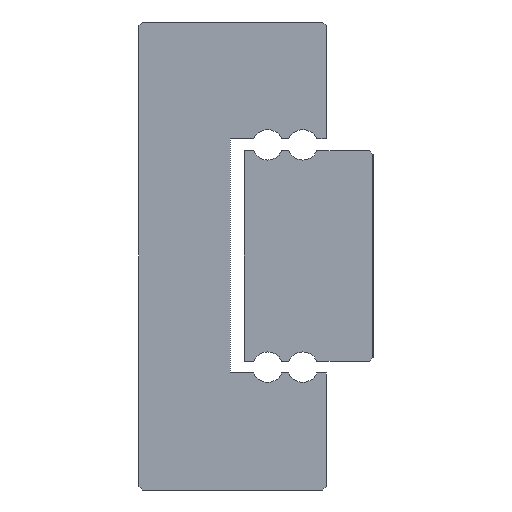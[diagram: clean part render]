
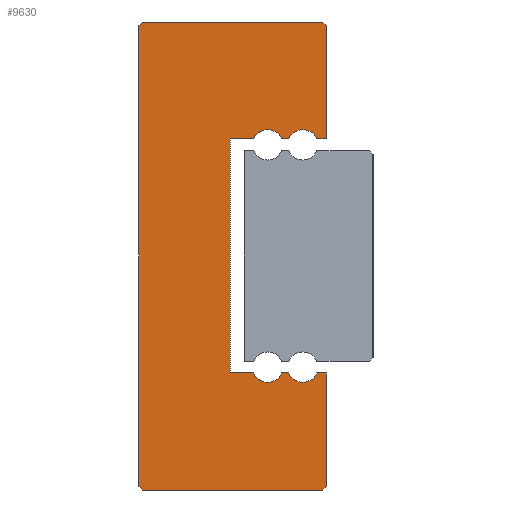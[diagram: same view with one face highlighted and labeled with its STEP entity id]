
A CAD part, left-side view. The second image highlights one B-rep face of the part: STEP entity #9630.
In plain terms, the highlighted planar face has unit normal (-1, 0, 0).
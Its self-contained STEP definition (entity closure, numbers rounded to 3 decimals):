
#320=CIRCLE('',#10468,0.65);
#322=CIRCLE('',#10472,0.65);
#324=CIRCLE('',#10478,0.65);
#326=CIRCLE('',#10482,0.65);
#1634=ORIENTED_EDGE('',*,*,#4026,.F.);
#1635=ORIENTED_EDGE('',*,*,#4480,.F.);
#1636=ORIENTED_EDGE('',*,*,#4477,.F.);
#1637=ORIENTED_EDGE('',*,*,#4460,.F.);
#1638=ORIENTED_EDGE('',*,*,#4457,.F.);
#1639=ORIENTED_EDGE('',*,*,#4454,.F.);
#1640=ORIENTED_EDGE('',*,*,#4451,.F.);
#1641=ORIENTED_EDGE('',*,*,#4448,.F.);
#1642=ORIENTED_EDGE('',*,*,#4445,.T.);
#1643=ORIENTED_EDGE('',*,*,#4442,.F.);
#1644=ORIENTED_EDGE('',*,*,#4439,.T.);
#1645=ORIENTED_EDGE('',*,*,#4436,.F.);
#1646=ORIENTED_EDGE('',*,*,#4433,.F.);
#1647=ORIENTED_EDGE('',*,*,#4430,.F.);
#1648=ORIENTED_EDGE('',*,*,#4427,.T.);
#1649=ORIENTED_EDGE('',*,*,#4424,.F.);
#1650=ORIENTED_EDGE('',*,*,#4421,.T.);
#1651=ORIENTED_EDGE('',*,*,#4418,.F.);
#1652=ORIENTED_EDGE('',*,*,#4415,.F.);
#1653=ORIENTED_EDGE('',*,*,#4412,.F.);
#4026=EDGE_CURVE('',#5486,#5487,#6478,.T.);
#4412=EDGE_CURVE('',#5487,#5872,#6616,.T.);
#4415=EDGE_CURVE('',#5872,#5874,#6619,.T.);
#4418=EDGE_CURVE('',#5874,#5876,#6622,.T.);
#4421=EDGE_CURVE('',#5878,#5876,#320,.T.);
#4424=EDGE_CURVE('',#5878,#5880,#6626,.T.);
#4427=EDGE_CURVE('',#5882,#5880,#322,.T.);
#4430=EDGE_CURVE('',#5882,#5884,#6630,.T.);
#4433=EDGE_CURVE('',#5884,#5886,#6633,.T.);
#4436=EDGE_CURVE('',#5886,#5888,#6636,.T.);
#4439=EDGE_CURVE('',#5890,#5888,#324,.T.);
#4442=EDGE_CURVE('',#5890,#5892,#6640,.T.);
#4445=EDGE_CURVE('',#5894,#5892,#326,.T.);
#4448=EDGE_CURVE('',#5894,#5896,#6644,.T.);
#4451=EDGE_CURVE('',#5896,#5898,#6647,.T.);
#4454=EDGE_CURVE('',#5898,#5900,#6650,.T.);
#4457=EDGE_CURVE('',#5900,#5902,#6653,.T.);
#4460=EDGE_CURVE('',#5902,#5904,#6656,.T.);
#4477=EDGE_CURVE('',#5904,#5920,#6659,.T.);
#4480=EDGE_CURVE('',#5920,#5486,#6662,.T.);
#5486=VERTEX_POINT('',#14759);
#5487=VERTEX_POINT('',#14760);
#5872=VERTEX_POINT('',#15532);
#5874=VERTEX_POINT('',#15538);
#5876=VERTEX_POINT('',#15544);
#5878=VERTEX_POINT('',#15550);
#5880=VERTEX_POINT('',#15556);
#5882=VERTEX_POINT('',#15562);
#5884=VERTEX_POINT('',#15568);
#5886=VERTEX_POINT('',#15574);
#5888=VERTEX_POINT('',#15580);
#5890=VERTEX_POINT('',#15586);
#5892=VERTEX_POINT('',#15592);
#5894=VERTEX_POINT('',#15598);
#5896=VERTEX_POINT('',#15604);
#5898=VERTEX_POINT('',#15610);
#5900=VERTEX_POINT('',#15616);
#5902=VERTEX_POINT('',#15622);
#5904=VERTEX_POINT('',#15628);
#5920=VERTEX_POINT('',#15662);
#6478=LINE('',#14758,#7294);
#6616=LINE('',#15531,#7432);
#6619=LINE('',#15537,#7435);
#6622=LINE('',#15543,#7438);
#6626=LINE('',#15555,#7442);
#6630=LINE('',#15567,#7446);
#6633=LINE('',#15573,#7449);
#6636=LINE('',#15579,#7452);
#6640=LINE('',#15591,#7456);
#6644=LINE('',#15603,#7460);
#6647=LINE('',#15609,#7463);
#6650=LINE('',#15615,#7466);
#6653=LINE('',#15621,#7469);
#6656=LINE('',#15627,#7472);
#6659=LINE('',#15661,#7475);
#6662=LINE('',#15667,#7478);
#7294=VECTOR('',#11519,1000.);
#7432=VECTOR('',#12155,1000.);
#7435=VECTOR('',#12160,1000.);
#7438=VECTOR('',#12165,1000.);
#7442=VECTOR('',#12177,1000.);
#7446=VECTOR('',#12189,1000.);
#7449=VECTOR('',#12194,1000.);
#7452=VECTOR('',#12199,1000.);
#7456=VECTOR('',#12211,1000.);
#7460=VECTOR('',#12223,1000.);
#7463=VECTOR('',#12228,1000.);
#7466=VECTOR('',#12233,1000.);
#7469=VECTOR('',#12238,1000.);
#7472=VECTOR('',#12243,1000.);
#7475=VECTOR('',#12276,1000.);
#7478=VECTOR('',#12281,1000.);
#8176=EDGE_LOOP('',(#1634,#1635,#1636,#1637,#1638,#1639,#1640,#1641,#1642,
#1643,#1644,#1645,#1646,#1647,#1648,#1649,#1650,#1651,#1652,#1653));
#8820=FACE_BOUND('',#8176,.T.);
#9393=PLANE('',#10506);
#9630=ADVANCED_FACE('',(#8820),#9393,.F.);
#10468=AXIS2_PLACEMENT_3D('',#15549,#12170,#12171);
#10472=AXIS2_PLACEMENT_3D('',#15561,#12182,#12183);
#10478=AXIS2_PLACEMENT_3D('',#15585,#12204,#12205);
#10482=AXIS2_PLACEMENT_3D('',#15597,#12216,#12217);
#10506=AXIS2_PLACEMENT_3D('',#15670,#12285,#12286);
#11519=DIRECTION('',(0.,-1.,0.));
#12155=DIRECTION('',(0.,-0.707,-0.707));
#12160=DIRECTION('',(0.,0.,-1.));
#12165=DIRECTION('',(0.,1.,0.));
#12170=DIRECTION('',(1.,0.,0.));
#12171=DIRECTION('',(0.,0.,-1.));
#12177=DIRECTION('',(0.,1.,0.));
#12182=DIRECTION('',(1.,0.,0.));
#12183=DIRECTION('',(0.,0.,-1.));
#12189=DIRECTION('',(0.,1.,0.));
#12194=DIRECTION('',(0.,0.,-1.));
#12199=DIRECTION('',(0.,-1.,0.));
#12204=DIRECTION('',(1.,0.,0.));
#12205=DIRECTION('',(0.,0.,-1.));
#12211=DIRECTION('',(0.,-1.,0.));
#12216=DIRECTION('',(1.,0.,0.));
#12217=DIRECTION('',(0.,0.,-1.));
#12223=DIRECTION('',(0.,-1.,0.));
#12228=DIRECTION('',(0.,0.,-1.));
#12233=DIRECTION('',(0.,0.707,-0.707));
#12238=DIRECTION('',(0.,1.,0.));
#12243=DIRECTION('',(0.,0.707,0.707));
#12276=DIRECTION('',(0.,0.,1.));
#12281=DIRECTION('',(0.,-0.707,0.707));
#12285=DIRECTION('',(1.,0.,0.));
#12286=DIRECTION('',(0.,0.,-1.));
#14758=CARTESIAN_POINT('',(-40.,7.85,10.));
#14759=CARTESIAN_POINT('',(-40.,7.85,10.));
#14760=CARTESIAN_POINT('',(-40.,0.15,10.));
#15531=CARTESIAN_POINT('',(-40.,0.15,10.));
#15532=CARTESIAN_POINT('',(-40.,0.,9.85));
#15537=CARTESIAN_POINT('',(-40.,0.,9.85));
#15538=CARTESIAN_POINT('',(-40.,0.,5.));
#15543=CARTESIAN_POINT('',(-40.,0.,5.));
#15544=CARTESIAN_POINT('',(-40.,0.4,5.));
#15549=CARTESIAN_POINT('',(-40.,1.,4.75));
#15550=CARTESIAN_POINT('',(-40.,1.6,5.));
#15555=CARTESIAN_POINT('',(-40.,1.6,5.));
#15556=CARTESIAN_POINT('',(-40.,1.9,5.));
#15561=CARTESIAN_POINT('',(-40.,2.5,4.75));
#15562=CARTESIAN_POINT('',(-40.,3.1,5.));
#15567=CARTESIAN_POINT('',(-40.,3.1,5.));
#15568=CARTESIAN_POINT('',(-40.,4.1,5.));
#15573=CARTESIAN_POINT('',(-40.,4.1,5.));
#15574=CARTESIAN_POINT('',(-40.,4.1,-5.));
#15579=CARTESIAN_POINT('',(-40.,4.1,-5.));
#15580=CARTESIAN_POINT('',(-40.,3.1,-5.));
#15585=CARTESIAN_POINT('',(-40.,2.5,-4.75));
#15586=CARTESIAN_POINT('',(-40.,1.9,-5.));
#15591=CARTESIAN_POINT('',(-40.,1.9,-5.));
#15592=CARTESIAN_POINT('',(-40.,1.6,-5.));
#15597=CARTESIAN_POINT('',(-40.,1.,-4.75));
#15598=CARTESIAN_POINT('',(-40.,0.4,-5.));
#15603=CARTESIAN_POINT('',(-40.,0.4,-5.));
#15604=CARTESIAN_POINT('',(-40.,0.,-5.));
#15609=CARTESIAN_POINT('',(-40.,0.,-5.));
#15610=CARTESIAN_POINT('',(-40.,0.,-9.85));
#15615=CARTESIAN_POINT('',(-40.,0.,-9.85));
#15616=CARTESIAN_POINT('',(-40.,0.15,-10.));
#15621=CARTESIAN_POINT('',(-40.,0.15,-10.));
#15622=CARTESIAN_POINT('',(-40.,7.85,-10.));
#15627=CARTESIAN_POINT('',(-40.,7.85,-10.));
#15628=CARTESIAN_POINT('',(-40.,8.,-9.85));
#15661=CARTESIAN_POINT('',(-40.,8.,-9.85));
#15662=CARTESIAN_POINT('',(-40.,8.,9.85));
#15667=CARTESIAN_POINT('',(-40.,8.,9.85));
#15670=CARTESIAN_POINT('',(-40.,1.,4.75));
